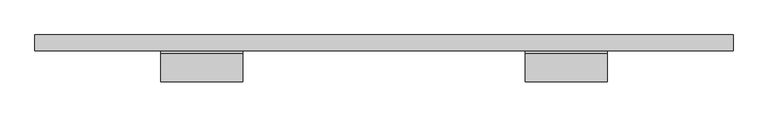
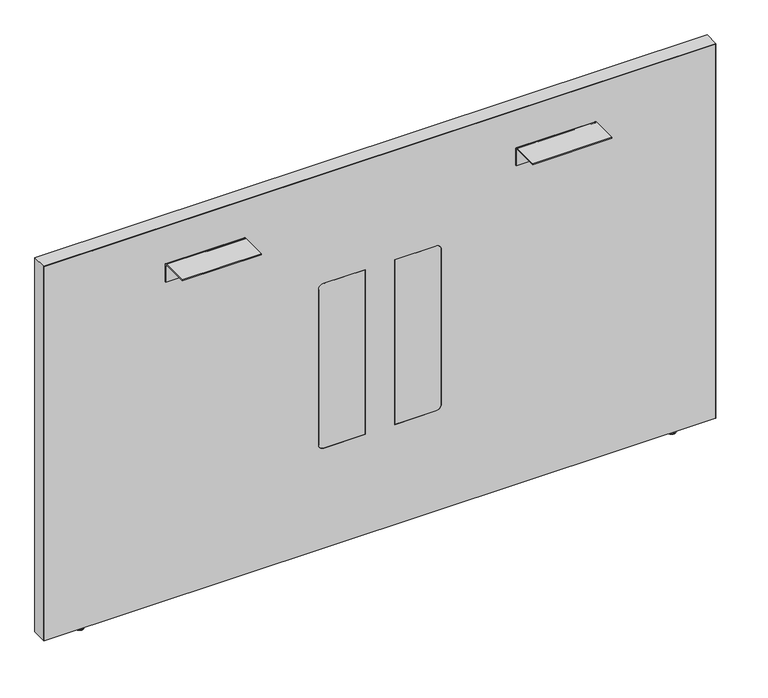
"""IFC4 building model written with IfcOpenShell, lengths in millimetres: furniture geometry, Steelcase - Answer Solution - Boundary Screen - Straight - Spanning : 30H x 51W."""

from ifc_helpers import new_model, si_unit, point, frame, frame_2d, origin, place, context, project, spatial, polyline, circle_curve, ellipse_curve, trimmed, segment, composite_curve, outline, extrude, source, transform, mapped, element, save
from ifc_brep_helpers import plane_surface, cylinder_surface, revolved_surface, advanced_brep


def furniture_5a69ee5c(model_context):
    return source(origin(), model_context, "Body", "SolidModel", [
        advanced_brep(
        [(-340.6902705, -14.8449166, 9.9059849), (-340.6902705, -5.9309607, 9.9059849), (-340.6902705, -23.7588726, 9.9059849), (-340.6902705, -5.9309607, 2.9673238), (-340.6902705, -23.7588726, 2.9673238), (-340.6902705, -6.8982978, 2.9673238), (-340.6902705, -22.7915354, 2.9673238), (-340.6902705, -6.8982978, 1.6569081), (-340.6902705, -22.7915354, 1.6569081), (-340.6902705, -8.5552059, 0.0), (-340.6902705, -21.1346274, 0.0), (-340.6902705, -14.8449166, 0.0)],
        [
            (0, 1),
            (1, 2, circle_curve(frame((-340.6902705, -14.8449166, 9.9059849), z_axis=(0.0, 0.0, 1.0), x_axis=(0.0, 1.0, 0.0)), 8.913956)),
            (2, 0),
            (2, 1, circle_curve(frame((-340.6902705, -14.8449166, 9.9059849), z_axis=(0.0, 0.0, 1.0), x_axis=(0.0, 1.0, 0.0)), 8.913956)),
            (1, 3),
            (3, 4, circle_curve(frame((-340.6902705, -14.8449166, 2.9673238), z_axis=(0.0, 0.0, 1.0), x_axis=(0.0, 1.0, 0.0)), 8.913956)),
            (4, 2),
            (4, 3, circle_curve(frame((-340.6902705, -14.8449166, 2.9673238), z_axis=(0.0, 0.0, 1.0), x_axis=(0.0, 1.0, 0.0)), 8.913956)),
            (3, 5),
            (5, 6, circle_curve(frame((-340.6902705, -14.8449166, 2.9673238), z_axis=(0.0, 0.0, 1.0), x_axis=(0.0, 1.0, 0.0)), 7.9466188)),
            (6, 4),
            (6, 5, circle_curve(frame((-340.6902705, -14.8449166, 2.9673238), z_axis=(0.0, 0.0, 1.0), x_axis=(0.0, 1.0, 0.0)), 7.9466188)),
            (5, 7),
            (7, 8, circle_curve(frame((-340.6902705, -14.8449166, 1.6569081), z_axis=(0.0, 0.0, 1.0), x_axis=(0.0, 1.0, 0.0)), 7.9466188)),
            (8, 6),
            (8, 7, circle_curve(frame((-340.6902705, -14.8449166, 1.6569081), z_axis=(0.0, 0.0, 1.0), x_axis=(0.0, 1.0, 0.0)), 7.9466188)),
            (7, 9, circle_curve(frame((-340.6902705, -8.5552059, 1.6569081), z_axis=(-1.0, 0.0, 0.0), x_axis=(0.0, 1.0, 0.0)), 1.6569081)),
            (9, 10, circle_curve(frame((-340.6902705, -14.8449166, 0.0), z_axis=(0.0, 0.0, 1.0), x_axis=(0.0, 1.0, 0.0)), 6.2897107)),
            (10, 8, circle_curve(frame((-340.6902705, -21.1346274, 1.6569081), z_axis=(-1.0, 0.0, 0.0), x_axis=(0.0, -1.0, 0.0)), 1.6569081)),
            (10, 9, circle_curve(frame((-340.6902705, -14.8449166, 0.0), z_axis=(0.0, 0.0, 1.0), x_axis=(0.0, 1.0, 0.0)), 6.2897107)),
            (9, 11),
            (11, 10),
        ],
        [
            plane_surface(frame((-340.6902705, -14.8449166, 9.9059849), z_axis=(0.0, 0.0, 1.0), x_axis=(0.0, 1.0, 0.0))),
            cylinder_surface(frame((-340.6902705, -14.8449166, 9.9059849), z_axis=(0.0, 0.0, 1.0), x_axis=(0.0, 1.0, 0.0)), 8.913956),
            plane_surface(frame((-340.6902705, -14.8449166, 2.9673238), z_axis=(0.0, 0.0, -1.0), x_axis=(0.0, 1.0, 0.0))),
            cylinder_surface(frame((-340.6902705, -14.8449166, 9.9059849), z_axis=(0.0, 0.0, 1.0), x_axis=(0.0, 1.0, 0.0)), 7.9466188),
            revolved_surface(trimmed(ellipse_curve(frame((-340.6902705, -8.5552059, 1.6569081), z_axis=(1.0, 0.0, 0.0), x_axis=(0.0, 1.0, 0.0)), 1.6569081, 1.6569081), [point((-340.6902705, -8.5552059, 0.0))], [point((-340.6902705, -6.8982978, 1.6569081))], True, "CARTESIAN"), (-340.6902705, -14.8449166, 9.9059849), (0.0, 0.0, 1.0)),
            plane_surface(frame((-340.6902705, -14.8449166, 0.0), z_axis=(0.0, 0.0, -1.0), x_axis=(0.0, 1.0, 0.0))),
        ],
        [
            (0, [[1, 2, 3]]),
            (0, [[-3, 4, -1]]),
            (1, [[-2, 5, 6, 7]]),
            (1, [[-4, -7, 8, -5]]),
            (2, [[-6, 9, 10, 11]]),
            (2, [[-8, -11, 12, -9]]),
            (3, [[-10, 13, 14, 15]]),
            (3, [[-12, -15, 16, -13]]),
            (4, [[-14, 17, 18, 19]]),
            (4, [[-16, -19, 20, -17]]),
            (5, [[-18, 21, 22]]),
            (5, [[-20, -22, -21]]),
        ],
    ),
        extrude(outline(composite_curve([segment(polyline([(-86.8398151, 696.4680019), (-86.8398151, 698.5), (-34.9450855, 698.5)]), True, "CONTINUOUS"), segment(trimmed(circle_curve(frame_2d((-34.9450855, 693.2447477)), 5.2552523), [point((-34.9450855, 698.5))], [point((-29.6898332, 693.2447477))], False, "CARTESIAN"), True, "CONTINUOUS"), segment(polyline([(-29.6898332, 693.2447477), (-29.6898332, 660.4), (-31.7218162, 660.4), (-31.7218162, 693.0058743)]), True, "CONTINUOUS"), segment(trimmed(circle_curve(frame_2d((-35.1839438, 693.0058743)), 3.4621276), [point((-31.7218162, 693.0058743))], [point((-35.1839438, 696.4680019))], True, "CARTESIAN"), True, "CONTINUOUS"), segment(polyline([(-35.1839438, 696.4680019), (-86.8398151, 696.4680019)]), True, "CONTINUOUS")], self_intersect=False)), frame((491.6282189, 0.0, 0.0), z_axis=(1.0, 0.0, 0.0), x_axis=(0.0, 1.0, 0.0)), (0.0, 0.0, 1.0), 152.4000969),
        extrude(outline(composite_curve([segment(polyline([(-86.8398151, 696.4680019), (-86.8398151, 698.5), (-34.9450855, 698.5)]), True, "CONTINUOUS"), segment(trimmed(circle_curve(frame_2d((-34.9450855, 693.2447477)), 5.2552523), [point((-34.9450855, 698.5))], [point((-29.6898332, 693.2447477))], False, "CARTESIAN"), True, "CONTINUOUS"), segment(polyline([(-29.6898332, 693.2447477), (-29.6898332, 660.4), (-31.7218162, 660.4), (-31.7218162, 693.0058743)]), True, "CONTINUOUS"), segment(trimmed(circle_curve(frame_2d((-35.1839438, 693.0058743)), 3.4621276), [point((-31.7218162, 693.0058743))], [point((-35.1839438, 696.4680019))], True, "CARTESIAN"), True, "CONTINUOUS"), segment(polyline([(-35.1839438, 696.4680019), (-86.8398151, 696.4680019)]), True, "CONTINUOUS")], self_intersect=False)), frame((-184.3884581, 0.0, 0.0), z_axis=(1.0, 0.0, 0.0), x_axis=(0.0, 1.0, 0.0)), (0.0, 0.0, 1.0), 152.4000969),
        advanced_brep(
        [(800.3286488, -23.7588726, 9.9059849), (800.3286488, -5.9309607, 9.9059849), (800.3286488, -14.8449166, 9.9059849), (800.3286488, -23.7588726, 2.9673238), (800.3286488, -5.9309607, 2.9673238), (800.3286488, -22.7915354, 2.9673238), (800.3286488, -6.8982978, 2.9673238), (800.3286488, -22.7915354, 1.6569081), (800.3286488, -6.8982978, 1.6569081), (800.3286488, -21.1346274, 0.0), (800.3286488, -8.5552059, 0.0), (800.3286488, -14.8449166, 0.0)],
        [
            (0, 1, circle_curve(frame((800.3286488, -14.8449166, 9.9059849), z_axis=(0.0, 0.0, 1.0), x_axis=(0.0, 1.0, 0.0)), 8.913956)),
            (1, 2),
            (2, 0),
            (1, 0, circle_curve(frame((800.3286488, -14.8449166, 9.9059849), z_axis=(0.0, 0.0, 1.0), x_axis=(0.0, 1.0, 0.0)), 8.913956)),
            (3, 4, circle_curve(frame((800.3286488, -14.8449166, 2.9673238), z_axis=(0.0, 0.0, 1.0), x_axis=(0.0, 1.0, 0.0)), 8.913956)),
            (4, 1),
            (0, 3),
            (4, 3, circle_curve(frame((800.3286488, -14.8449166, 2.9673238), z_axis=(0.0, 0.0, 1.0), x_axis=(0.0, 1.0, 0.0)), 8.913956)),
            (5, 6, circle_curve(frame((800.3286488, -14.8449166, 2.9673238), z_axis=(0.0, 0.0, 1.0), x_axis=(0.0, 1.0, 0.0)), 7.9466188)),
            (6, 4),
            (3, 5),
            (6, 5, circle_curve(frame((800.3286488, -14.8449166, 2.9673238), z_axis=(0.0, 0.0, 1.0), x_axis=(0.0, 1.0, 0.0)), 7.9466188)),
            (7, 8, circle_curve(frame((800.3286488, -14.8449166, 1.6569081), z_axis=(0.0, 0.0, 1.0), x_axis=(0.0, 1.0, 0.0)), 7.9466188)),
            (8, 6),
            (5, 7),
            (8, 7, circle_curve(frame((800.3286488, -14.8449166, 1.6569081), z_axis=(0.0, 0.0, 1.0), x_axis=(0.0, 1.0, 0.0)), 7.9466188)),
            (9, 10, circle_curve(frame((800.3286488, -14.8449166, 0.0), z_axis=(0.0, 0.0, 1.0), x_axis=(0.0, 1.0, 0.0)), 6.2897107)),
            (10, 8, circle_curve(frame((800.3286488, -8.5552059, 1.6569081), z_axis=(1.0, 0.0, 0.0), x_axis=(0.0, 1.0, 0.0)), 1.6569081)),
            (7, 9, circle_curve(frame((800.3286488, -21.1346274, 1.6569081), z_axis=(1.0, 0.0, 0.0), x_axis=(0.0, -1.0, 0.0)), 1.6569081)),
            (10, 9, circle_curve(frame((800.3286488, -14.8449166, 0.0), z_axis=(0.0, 0.0, 1.0), x_axis=(0.0, 1.0, 0.0)), 6.2897107)),
            (11, 10),
            (9, 11),
        ],
        [
            plane_surface(frame((800.3286488, -14.8449166, 9.9059849), z_axis=(0.0, 0.0, 1.0), x_axis=(0.0, 1.0, 0.0))),
            cylinder_surface(frame((800.3286488, -14.8449166, 9.9059849), z_axis=(0.0, 0.0, -1.0), x_axis=(0.0, 1.0, 0.0)), 8.913956),
            plane_surface(frame((800.3286488, -14.8449166, 2.9673238), z_axis=(0.0, 0.0, -1.0), x_axis=(0.0, 1.0, 0.0))),
            cylinder_surface(frame((800.3286488, -14.8449166, 9.9059849), z_axis=(0.0, 0.0, -1.0), x_axis=(0.0, 1.0, 0.0)), 7.9466188),
            revolved_surface(trimmed(ellipse_curve(frame((800.3286488, -8.5552059, 1.6569081), z_axis=(-1.0, 0.0, 0.0), x_axis=(0.0, 1.0, 0.0)), 1.6569081, 1.6569081), [point((800.3286488, -6.8982978, 1.6569081))], [point((800.3286488, -8.5552059, 0.0))], True, "CARTESIAN"), (800.3286488, -14.8449166, 9.9059849), (0.0, 0.0, -1.0)),
            plane_surface(frame((800.3286488, -14.8449166, 0.0), z_axis=(0.0, 0.0, -1.0), x_axis=(0.0, 1.0, 0.0))),
        ],
        [
            (0, [[1, 2, 3]]),
            (0, [[4, -3, -2]]),
            (1, [[5, 6, -1, 7]]),
            (1, [[8, -7, -4, -6]]),
            (2, [[9, 10, -5, 11]]),
            (2, [[12, -11, -8, -10]]),
            (3, [[13, 14, -9, 15]]),
            (3, [[16, -15, -12, -14]]),
            (4, [[17, 18, -13, 19]]),
            (4, [[20, -19, -16, -18]]),
            (5, [[21, -17, 22]]),
            (5, [[-22, -20, -21]]),
        ],
    ),
        advanced_brep(
        [(876.4780168, 0.0, 771.942118), (876.4780168, 0.0, 9.9059849), (-416.8902221, 0.0, 9.9059849), (-416.8902221, 0.0, 771.942118), (876.4780168, -29.6898332, 771.942118), (-416.8902221, -29.6898332, 771.942118), (-416.8902221, -29.6898332, 9.9059849), (876.4780168, -29.6898332, 9.9059849), (337.7883813, -29.6898332, 549.6162029), (347.9483813, -29.6898332, 539.4562029), (347.9483813, -29.6898332, 223.9362137), (337.7883813, -29.6898332, 213.7762137), (258.1344836, -29.6898332, 213.7762137), (258.1344836, -29.6898332, 549.6162029), (121.849997, -29.6898332, 549.6162029), (201.5038947, -29.6898332, 549.6162029), (201.5038947, -29.6898332, 213.7762137), (121.849997, -29.6898332, 213.7762137), (111.689997, -29.6898332, 223.9362137), (111.689997, -29.6898332, 539.4562029), (258.1344836, -29.0550397, 549.6162029), (337.7883813, -29.0550397, 549.6162029), (258.1344836, -29.0550397, 213.7762137), (337.7883813, -29.0550397, 213.7762137), (347.9483813, -29.0550397, 223.9362137), (347.9483813, -29.0550397, 539.4562029), (121.849997, -29.0550397, 549.6162029), (111.689997, -29.0550397, 539.4562029), (111.689997, -29.0550397, 223.9362137), (121.849997, -29.0550397, 213.7762137), (201.5038947, -29.0550397, 213.7762137), (201.5038947, -29.0550397, 549.6162029)],
        [
            (0, 1),
            (1, 2),
            (2, 3),
            (3, 0),
            (4, 5),
            (5, 6),
            (6, 7),
            (7, 4),
            (8, 9, circle_curve(frame((337.7883813, -29.6898332, 539.4562029), z_axis=(0.0, 1.0, 0.0), x_axis=(0.0, 0.0, 1.0)), 10.16)),
            (9, 10),
            (10, 11, circle_curve(frame((337.7883813, -29.6898332, 223.9362137), z_axis=(0.0, 1.0, 0.0), x_axis=(0.0, 0.0, 1.0)), 10.16)),
            (11, 12),
            (12, 13),
            (13, 8),
            (14, 15),
            (15, 16),
            (16, 17),
            (17, 18, circle_curve(frame((121.849997, -29.6898332, 223.9362137), z_axis=(0.0, 1.0, 0.0), x_axis=(0.0, 0.0, 1.0)), 10.16)),
            (18, 19),
            (19, 14, circle_curve(frame((121.849997, -29.6898332, 539.4562029), z_axis=(0.0, 1.0, 0.0), x_axis=(0.0, 0.0, 1.0)), 10.16)),
            (0, 4),
            (7, 1),
            (6, 2),
            (5, 3),
            (13, 20),
            (20, 21),
            (21, 8),
            (12, 22),
            (22, 20),
            (11, 23),
            (23, 22),
            (10, 24),
            (24, 23, circle_curve(frame((337.7883813, -29.0550397, 223.9362137), z_axis=(0.0, 1.0, 0.0), x_axis=(0.0, 0.0, 1.0)), 10.16)),
            (9, 25),
            (25, 24),
            (21, 25, circle_curve(frame((337.7883813, -29.0550397, 539.4562029), z_axis=(0.0, 1.0, 0.0), x_axis=(0.0, 0.0, 1.0)), 10.16)),
            (26, 27, circle_curve(frame((121.849997, -29.0550397, 539.4562029), z_axis=(0.0, -1.0, 0.0), x_axis=(0.0, 0.0, 1.0)), 10.16)),
            (27, 28),
            (28, 29, circle_curve(frame((121.849997, -29.0550397, 223.9362137), z_axis=(0.0, -1.0, 0.0), x_axis=(0.0, 0.0, 1.0)), 10.16)),
            (29, 30),
            (30, 31),
            (31, 26),
            (19, 27),
            (26, 14),
            (18, 28),
            (17, 29),
            (16, 30),
            (15, 31),
        ],
        [
            plane_surface(frame((876.4780168, 0.0, 771.942118), z_axis=(0.0, 1.0, 0.0), x_axis=(0.0, 0.0, -1.0))),
            plane_surface(frame((876.4780168, -29.6898332, 771.942118), z_axis=(0.0, -1.0, 0.0), x_axis=(0.0, 0.0, 1.0))),
            plane_surface(frame((876.4780168, 0.0, 771.942118), z_axis=(1.0, 0.0, 0.0), x_axis=(0.0, -1.0, 0.0))),
            plane_surface(frame((876.4780168, 0.0, 9.9059849), z_axis=(0.0, 0.0, -1.0), x_axis=(0.0, -1.0, 0.0))),
            plane_surface(frame((-416.8902221, 0.0, 9.9059849), z_axis=(-1.0, 0.0, 0.0), x_axis=(0.0, -1.0, 0.0))),
            plane_surface(frame((-416.8902221, 0.0, 771.942118), z_axis=(0.0, 0.0, 1.0), x_axis=(0.0, -1.0, 0.0))),
            plane_surface(frame((337.7883813, 0.0, 549.6162029), z_axis=(0.0, 0.0, -1.0), x_axis=(0.0, -1.0, 0.0))),
            plane_surface(frame((258.1344836, 0.0, 549.6162029), z_axis=(1.0, 0.0, 0.0), x_axis=(0.0, -1.0, 0.0))),
            plane_surface(frame((258.1344836, 0.0, 213.7762137), z_axis=(0.0, 0.0, 1.0), x_axis=(0.0, -1.0, 0.0))),
            revolved_surface(polyline([(337.7883813, -29.6898332, 234.0962137), (337.7883813, -29.0550397, 234.0962137)]), (337.7883813, -29.6898332, 223.9362137), (0.0, -1.0, 0.0)),
            plane_surface(frame((347.9483813, 0.0, 223.9362137), z_axis=(-1.0, 0.0, 0.0), x_axis=(0.0, -1.0, 0.0))),
            revolved_surface(polyline([(337.7883813, -29.6898332, 549.6162029), (337.7883813, -29.0550397, 549.6162029)]), (337.7883813, -29.6898332, 539.4562029), (0.0, -1.0, 0.0)),
            plane_surface(frame((347.9483813, -29.0550397, 549.6162029), z_axis=(0.0, -1.0, 0.0), x_axis=(0.0, 0.0, 1.0))),
            revolved_surface(polyline([(121.849997, -29.6898332, 549.6162029), (121.849997, -29.0550397, 549.6162029)]), (121.849997, -29.6898332, 539.4562029), (0.0, -1.0, 0.0)),
            plane_surface(frame((111.689997, 0.0, 539.4562029), z_axis=(1.0, 0.0, 0.0), x_axis=(0.0, -1.0, 0.0))),
            revolved_surface(polyline([(121.849997, -29.6898332, 234.0962137), (121.849997, -29.0550397, 234.0962137)]), (121.849997, -29.6898332, 223.9362137), (0.0, -1.0, 0.0)),
            plane_surface(frame((121.849997, 0.0, 213.7762137), z_axis=(0.0, 0.0, 1.0), x_axis=(0.0, -1.0, 0.0))),
            plane_surface(frame((201.5038947, 0.0, 213.7762137), z_axis=(-1.0, 0.0, 0.0), x_axis=(0.0, -1.0, 0.0))),
            plane_surface(frame((201.5038947, 0.0, 549.6162029), z_axis=(0.0, 0.0, -1.0), x_axis=(0.0, -1.0, 0.0))),
        ],
        [
            (0, [[1, 2, 3, 4]]),
            (1, [[5, 6, 7, 8], [9, 10, 11, 12, 13, 14], [15, 16, 17, 18, 19, 20]]),
            (2, [[-1, 21, -8, 22]]),
            (3, [[-2, -22, -7, 23]]),
            (4, [[-3, -23, -6, 24]]),
            (5, [[-4, -24, -5, -21]]),
            (6, [[-14, 25, 26, 27]]),
            (7, [[-13, 28, 29, -25]]),
            (8, [[-12, 30, 31, -28]]),
            (9, [[-11, 32, 33, -30]]),
            (10, [[-10, 34, 35, -32]]),
            (11, [[-9, -27, 36, -34]]),
            (12, [[-26, -29, -31, -33, -35, -36]]),
            (12, [[37, 38, 39, 40, 41, 42]]),
            (13, [[-20, 43, -37, 44]]),
            (14, [[-19, 45, -38, -43]]),
            (15, [[-18, 46, -39, -45]]),
            (16, [[-17, 47, -40, -46]]),
            (17, [[-16, 48, -41, -47]]),
            (18, [[-15, -44, -42, -48]]),
        ],
    ),
        extrude(outline(composite_curve([segment(polyline([(549.6162029, 337.7883813), (549.6162029, 258.1344836), (213.7762137, 258.1344836), (213.7762137, 337.7883813)]), True, "CONTINUOUS"), segment(trimmed(circle_curve(frame_2d((223.9362137, 337.7883813)), 10.16), [point((213.7762137, 337.7883813))], [point((223.9362137, 347.9483813))], False, "CARTESIAN"), True, "CONTINUOUS"), segment(polyline([(223.9362137, 347.9483813), (539.4562029, 347.9483813)]), True, "CONTINUOUS"), segment(trimmed(circle_curve(frame_2d((539.4562029, 337.7883813)), 10.16), [point((539.4562029, 347.9483813))], [point((549.6162029, 337.7883813))], False, "CARTESIAN"), True, "CONTINUOUS")], self_intersect=False)), frame((0.0, -29.6898332, 0.0), z_axis=(0.0, 1.0, 0.0), x_axis=(0.0, 0.0, 1.0)), (0.0, 0.0, 1.0), 0.6347935),
        extrude(outline(composite_curve([segment(trimmed(circle_curve(frame_2d((539.4562029, 121.849997)), 10.16), [point((549.6162029, 121.849997))], [point((539.4562029, 111.689997))], False, "CARTESIAN"), True, "CONTINUOUS"), segment(polyline([(539.4562029, 111.689997), (223.9362137, 111.689997)]), True, "CONTINUOUS"), segment(trimmed(circle_curve(frame_2d((223.9362137, 121.849997)), 10.16), [point((223.9362137, 111.689997))], [point((213.7762137, 121.849997))], False, "CARTESIAN"), True, "CONTINUOUS"), segment(polyline([(213.7762137, 121.849997), (213.7762137, 201.5038947), (549.6162029, 201.5038947), (549.6162029, 121.849997)]), True, "CONTINUOUS")], self_intersect=False)), frame((0.0, -29.6898332, 0.0), z_axis=(0.0, 1.0, 0.0), x_axis=(0.0, 0.0, 1.0)), (0.0, 0.0, 1.0), 0.6347935),
        extrude(outline(polyline([(772.922, 877.5191891), (772.922, -417.8808109), (9.9059849, -417.8808109), (9.9059849, -416.8902221), (771.942118, -416.8902221), (771.942118, 876.4780168), (9.9059849, 876.4780168), (9.9059849, 877.5191891), (772.922, 877.5191891)])), frame((0.0, -29.6898332, 0.0), z_axis=(0.0, 1.0, 0.0), x_axis=(0.0, 0.0, 1.0)), (0.0, 0.0, 1.0), 29.6898332),
    ])


if __name__ == "__main__":
    model = new_model("IFC4")
    model_context = context("Model", 3, world=origin())
    ifc_project = project(units=[si_unit("LENGTHUNIT", "METRE", prefix="MILLI")], contexts=[model_context])
    site = spatial("IfcSite", under=ifc_project)
    building = spatial("IfcBuilding", under=site)
    placement = place(None, origin())
    furniture_shape = furniture_5a69ee5c(model_context)
    element("IfcFurniture", 1, ObjectType="Steelcase - Answer Solution - Boundary Screen - Straight - Spanning : 30H x 51W", at=placement, inside=building, context=model_context, shape_type="MappedRepresentation", body=[
        mapped(furniture_shape, transform((0.0, 0.0, 0.0), x_axis=(1.0, 0.0, 0.0), y_axis=(0.0, 1.0, 0.0), z_axis=(0.0, 0.0, 1.0))),
    ])
    save(model, "model.ifc")
